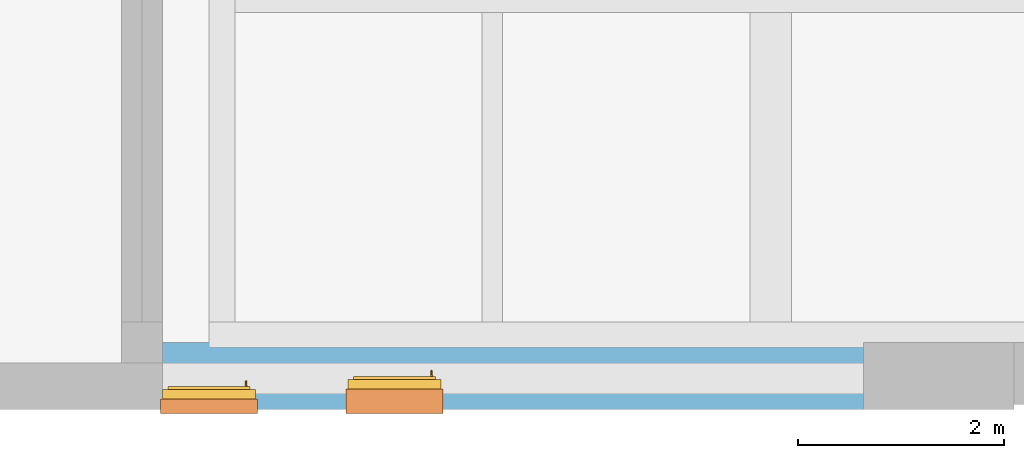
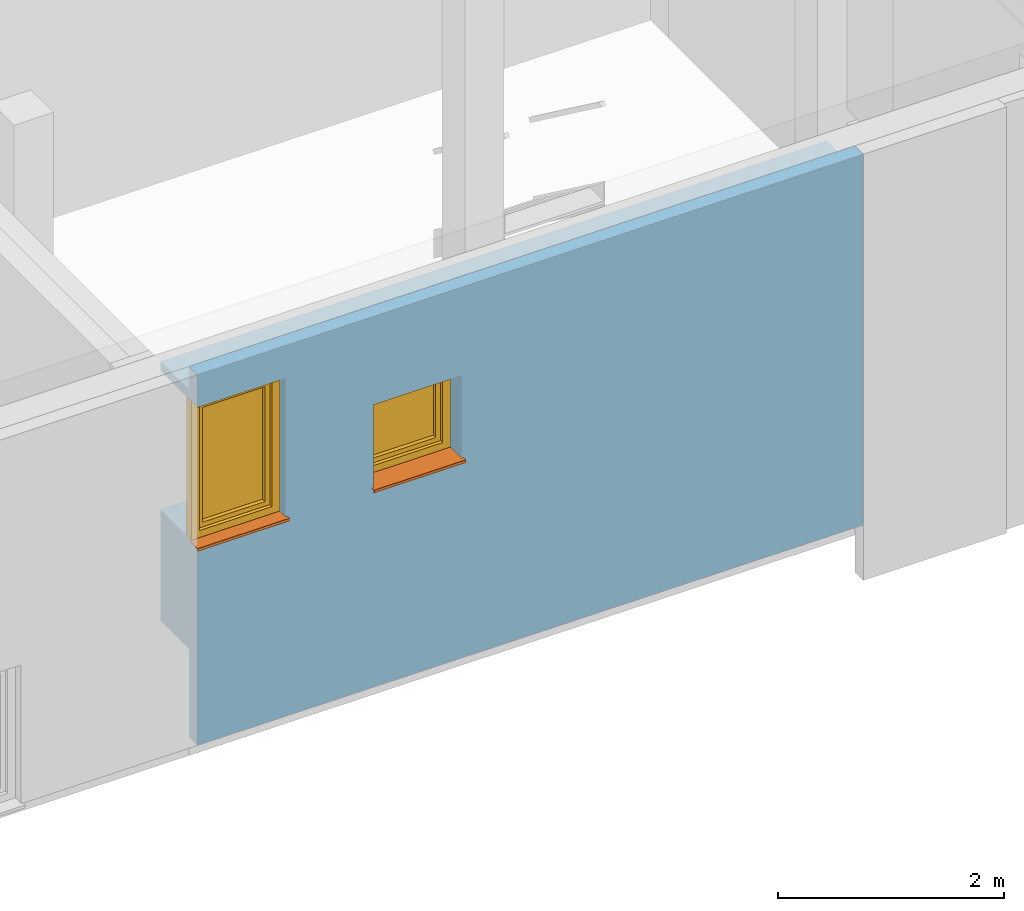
# One storey, part 12 of 17: 2 proxies, 2 windows, 2 openings, plus 1 element that does not belong to this part.
"""IFC4 building model written with IfcOpenShell, lengths in metres."""

from ifc_helpers import new_model, entity, si_unit, converted_unit, derived_unit, frame, frame_2d, origin, origin_with_axes, place, context, subcontext, project, spatial, polyline, rectangle, outline, extrude, clip, bounded_halfspace, closed_shell, open_shell, faceted_brep, surface_model, source, transform, mapped, material, layer, layer_set, layer_usage, element, fill, save


model = new_model("IFC4")

# Units and contexts
model_context = context("Model", 3, precision=1e-05, world=origin())
body_context = subcontext(model_context, "Body", "Model", "MODEL_VIEW")
ifc_project = project(units=[si_unit("LENGTHUNIT", "METRE"), si_unit("AREAUNIT", "SQUARE_METRE"), si_unit("VOLUMEUNIT", "CUBIC_METRE"), si_unit("MASSUNIT", "GRAM", prefix="KILO"), converted_unit("PLANEANGLEUNIT", "DEGREE", entity("IfcPlaneAngleMeasure", 0.0174532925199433), si_unit("PLANEANGLEUNIT", "RADIAN"), dimensions=[0, 0, 0, 0, 0, 0, 0]), derived_unit("THERMALTRANSMITTANCEUNIT", [(si_unit("POWERUNIT", "WATT"), 1), (si_unit("THERMODYNAMICTEMPERATUREUNIT", "KELVIN"), -1), (si_unit("LENGTHUNIT", "METRE"), -2)]), derived_unit("VOLUMETRICFLOWRATEUNIT", [(si_unit("LENGTHUNIT", "METRE"), 3), (converted_unit("TIMEUNIT", "hour", entity("IfcTimeMeasure", 3600.0), si_unit("TIMEUNIT", "SECOND"), dimensions=[0, 0, 1, 0, 0, 0, 0]), -1), (si_unit("LENGTHUNIT", "METRE"), -1)])], contexts=[model_context])

# Site, building, storey
site_placement = place(None, origin())
site = spatial("IfcSite", under=ifc_project, at=site_placement, Name="3. ASŘ", CompositionType="ELEMENT")
building_placement = place(site_placement, origin())
building = spatial("IfcBuilding", under=site, at=building_placement, Name="Pavilon C", CompositionType="ELEMENT")
storey_placement = place(building_placement, frame((0.0, 0.0, 13.8)))
storey = spatial("IfcBuildingStorey", under=building, at=storey_placement, Name="Půdorys 5.NP", CompositionType="ELEMENT", Elevation=13.8)

# Wall, openings, windows, proxies
ifc_material_1 = material(Name="EPS")
ifc_layer_1 = layer(ifc_material_1, 0.15)
ifc_material_2 = material(Name="PLYNOSILIKÁT")
ifc_layer_2 = layer(ifc_material_2, 0.5)
ifc_layer_set = layer_set([ifc_layer_1, ifc_layer_2])
ifc_layer_usage = layer_usage(ifc_layer_set, "AXIS2", "POSITIVE", -0.15)
wall_placement = place(storey_placement, frame((34.85, -4.65, 0.1), z_axis=(0.0, 0.0, 1.0), x_axis=(1.0, -1.3374922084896e-16, 0.0)))
wall = element("IfcWall", 1, at=wall_placement, inside=storey, material=ifc_layer_usage, Name="PLYNOSILIKÁT", context=body_context, shape_type="Clipping", body=[
    clip(clip(extrude(rectangle(XDim=6.80000000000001, YDim=0.65, at=frame_2d((3.40000000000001, 0.325), x_axis=(1.0, 0.0))), origin_with_axes(), (0.0, 0.0, 1.0), 4.0), bounded_halfspace(frame((3.40000000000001, 0.4, 0.95), z_axis=(0.0, 0.0, 1.0), x_axis=(1.3374922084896e-16, -1.0, 0.0)), True, origin_with_axes(), polyline([(-8.69369935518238e-17, 0.65), (-2.00623831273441e-17, 0.150000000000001), (6.80000000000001, 0.150000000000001), (6.80000000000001, 0.65), (-8.69369935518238e-17, 0.65)]))), bounded_halfspace(frame((3.40000000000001, 0.4, 3.75), z_axis=(0.0, 0.0, -1.0), x_axis=(1.0, 0.0, 0.0)), True, origin_with_axes(), polyline([(-2.00623831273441e-17, 0.150000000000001), (6.80000000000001, 0.150000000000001), (6.80000000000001, 0.65), (-8.69369935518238e-17, 0.65), (-2.00623831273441e-17, 0.150000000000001)]))),
])
opening_1_placement = place(wall_placement, frame((0.0, 0.0, 2.15), z_axis=(-1.3374922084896e-16, 1.0, 0.0), x_axis=(0.0, 0.0, 1.0)))
opening_1 = element("IfcOpeningElement", 2, at=opening_1_placement, cuts=wall, Name="Okenní otvor", ObjectType="Opening", context=body_context, shape_type="SweptSolid", body=[
    extrude(outline(polyline([(0.0, 0.9), (1.5, 0.9), (1.5, 0.0), (0.0, 0.0), (0.0, 0.9)])), origin_with_axes(), (0.0, 0.0, 1.0), 0.15),
    extrude(outline(polyline([(0.0, 0.9), (1.5, 0.9), (1.5, 0.0), (0.0, 0.0), (0.0, 0.9)])), frame((0.0, 0.0, 0.15), z_axis=(0.0, 0.0, 1.0), x_axis=(1.0, 0.0, 0.0)), (0.0, 0.0, 1.0), 0.5),
])
opening_2_placement = place(wall_placement, frame((1.8, 2.40748597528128e-16, 2.15), z_axis=(0.0, 1.0, 0.0), x_axis=(0.0, 0.0, 1.0)))
opening_2 = element("IfcOpeningElement", 3, at=opening_2_placement, cuts=wall, Name="Okenní otvor", ObjectType="Opening", context=body_context, shape_type="SweptSolid", body=[
    extrude(outline(polyline([(0.0, 0.9), (0.9, 0.9), (0.9, 0.0), (0.0, 0.0), (0.0, 0.9)])), origin_with_axes(), (0.0, 0.0, 1.0), 0.15),
    extrude(outline(polyline([(0.0, 0.9), (0.9, 0.9), (0.9, 0.0), (0.0, 0.0), (0.0, 0.9)])), frame((0.0, 0.0, 0.15), z_axis=(0.0, 0.0, 1.0), x_axis=(1.0, 0.0, 0.0)), (0.0, 0.0, 1.0), 0.5),
])
shared_shape_1 = source(origin_with_axes(), body_context, "Body", "SurfaceModel", [
    surface_model("IfcShellBasedSurfaceModel", [(0.0, 0.182, 1.5), (0.0, 0.182, -5.63337527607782e-18), (0.08, 0.182, -5.63337527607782e-18), (0.08, 0.182, 1.5), (0.0, 0.0899999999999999, 5.63337527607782e-18), (0.0, 0.0900000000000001, 1.5), (0.08, 0.0900000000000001, 1.5), (0.08, 0.0899999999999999, 5.63337527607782e-18)], [closed_shell([[[0, 1, 2, 3]], [[4, 5, 6, 7]], [[1, 0, 5, 4]], [[2, 1, 4, 7]], [[3, 2, 7, 6]], [[0, 3, 6, 5]]], orient=[[False], [False], [False], [False], [False], [False]])]),
    surface_model("IfcShellBasedSurfaceModel", [(0.82, 0.182, 1.5), (0.82, 0.182, -5.63337527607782e-18), (0.9, 0.182, -5.63337527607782e-18), (0.9, 0.182, 1.5), (0.82, 0.0899999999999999, 5.63337527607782e-18), (0.82, 0.0900000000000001, 1.5), (0.9, 0.0900000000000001, 1.5), (0.9, 0.0899999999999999, 5.63337527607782e-18)], [closed_shell([[[0, 1, 2, 3]], [[4, 5, 6, 7]], [[1, 0, 5, 4]], [[2, 1, 4, 7]], [[3, 2, 7, 6]], [[0, 3, 6, 5]]], orient=[[False], [False], [False], [False], [False], [False]])]),
    surface_model("IfcShellBasedSurfaceModel", [(0.08, 0.182, 0.08), (0.08, 0.182, -5.63337527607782e-18), (0.82, 0.182, -5.63337527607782e-18), (0.82, 0.182, 0.08), (0.08, 0.0899999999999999, 5.63337527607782e-18), (0.08, 0.0899999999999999, 0.08), (0.82, 0.0899999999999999, 0.08), (0.82, 0.0899999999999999, 5.63337527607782e-18)], [closed_shell([[[0, 1, 2, 3]], [[4, 5, 6, 7]], [[1, 0, 5, 4]], [[2, 1, 4, 7]], [[3, 2, 7, 6]], [[0, 3, 6, 5]]], orient=[[False], [False], [False], [False], [False], [False]])]),
    surface_model("IfcShellBasedSurfaceModel", [(0.08, 0.182, 1.5), (0.08, 0.182, 1.42), (0.82, 0.182, 1.42), (0.82, 0.182, 1.5), (0.08, 0.0900000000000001, 1.42), (0.08, 0.0900000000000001, 1.5), (0.82, 0.0900000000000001, 1.5), (0.82, 0.0900000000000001, 1.42)], [closed_shell([[[0, 1, 2, 3]], [[4, 5, 6, 7]], [[1, 0, 5, 4]], [[2, 1, 4, 7]], [[3, 2, 7, 6]], [[0, 3, 6, 5]]], orient=[[False], [False], [False], [False], [False], [False]])]),
    surface_model("IfcShellBasedSurfaceModel", [(0.05, 0.145, 1.45), (0.05, 0.145, 0.05), (0.13, 0.145, 0.05), (0.13, 0.145, 1.45), (0.05, 0.0599999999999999, 0.05), (0.05, 0.0600000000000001, 1.45), (0.13, 0.0600000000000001, 1.45), (0.13, 0.0599999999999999, 0.05)], [closed_shell([[[0, 1, 2, 3]], [[4, 5, 6, 7]], [[1, 0, 5, 4]], [[2, 1, 4, 7]], [[3, 2, 7, 6]], [[0, 3, 6, 5]]], orient=[[False], [False], [False], [False], [False], [False]])]),
    surface_model("IfcShellBasedSurfaceModel", [(0.77, 0.145, 1.45), (0.77, 0.145, 0.05), (0.85, 0.145, 0.05), (0.85, 0.145, 1.45), (0.77, 0.0599999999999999, 0.05), (0.77, 0.0600000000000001, 1.45), (0.85, 0.0600000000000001, 1.45), (0.85, 0.0599999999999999, 0.05)], [closed_shell([[[0, 1, 2, 3]], [[4, 5, 6, 7]], [[1, 0, 5, 4]], [[2, 1, 4, 7]], [[3, 2, 7, 6]], [[0, 3, 6, 5]]], orient=[[False], [False], [False], [False], [False], [False]])]),
    surface_model("IfcShellBasedSurfaceModel", [(0.13, 0.145, 0.13), (0.13, 0.145, 0.05), (0.77, 0.145, 0.05), (0.77, 0.145, 0.13), (0.13, 0.0599999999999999, 0.05), (0.13, 0.0599999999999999, 0.13), (0.77, 0.0599999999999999, 0.13), (0.77, 0.0599999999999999, 0.05)], [closed_shell([[[0, 1, 2, 3]], [[4, 5, 6, 7]], [[1, 0, 5, 4]], [[2, 1, 4, 7]], [[3, 2, 7, 6]], [[0, 3, 6, 5]]], orient=[[False], [False], [False], [False], [False], [False]])]),
    surface_model("IfcShellBasedSurfaceModel", [(0.13, 0.145, 1.45), (0.13, 0.145, 1.37), (0.77, 0.145, 1.37), (0.77, 0.145, 1.45), (0.13, 0.0600000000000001, 1.37), (0.13, 0.0600000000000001, 1.45), (0.77, 0.0600000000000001, 1.45), (0.77, 0.0600000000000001, 1.37)], [closed_shell([[[0, 1, 2, 3]], [[4, 5, 6, 7]], [[1, 0, 5, 4]], [[2, 1, 4, 7]], [[3, 2, 7, 6]], [[0, 3, 6, 5]]], orient=[[False], [False], [False], [False], [False], [False]])]),
    surface_model("IfcShellBasedSurfaceModel", [(0.0775, 0.06, 0.77), (0.0775, 0.06, 0.73), (0.1025, 0.06, 0.73), (0.1025, 0.06, 0.77), (0.0775, 0.05, 0.73), (0.0775, 0.05, 0.77), (0.1025, 0.05, 0.77), (0.1025, 0.05, 0.73)], [closed_shell([[[0, 1, 2, 3]], [[4, 5, 6, 7]], [[1, 0, 5, 4]], [[2, 1, 4, 7]], [[3, 2, 7, 6]], [[0, 3, 6, 5]]], orient=[[False], [False], [False], [False], [False], [False]])]),
    surface_model("IfcShellBasedSurfaceModel", [(0.1, 0.05, 0.75), (0.0986602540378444, 0.05, 0.755), (0.095, 0.05, 0.758660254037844), (0.09, 0.05, 0.76), (0.085, 0.05, 0.758660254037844), (0.0813397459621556, 0.05, 0.755), (0.08, 0.05, 0.75), (0.0813397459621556, 0.05, 0.745), (0.085, 0.05, 0.741339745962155), (0.09, 0.05, 0.74), (0.095, 0.05, 0.741339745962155), (0.0986602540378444, 0.05, 0.745), (0.1, 0.01, 0.75), (0.0986602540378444, 0.00500000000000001, 0.755), (0.095, 0.00133974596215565, 0.758660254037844), (0.09, 2.8421709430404e-17, 0.76), (0.085, 0.00133974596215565, 0.758660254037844), (0.0813397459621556, 0.00500000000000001, 0.755), (0.08, 0.01, 0.75), (0.0813397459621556, 0.015, 0.745), (0.085, 0.0186602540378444, 0.741339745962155), (0.09, 0.02, 0.74), (0.095, 0.0186602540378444, 0.741339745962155), (0.0986602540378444, 0.015, 0.745), (0.1, 0.01, 0.635), (0.0986602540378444, 0.005, 0.635), (0.095, 0.00133974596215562, 0.635), (0.09, 0.0, 0.635), (0.085, 0.00133974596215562, 0.635), (0.0813397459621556, 0.005, 0.635), (0.08, 0.01, 0.635), (0.0813397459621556, 0.015, 0.635), (0.085, 0.0186602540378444, 0.635), (0.09, 0.02, 0.635), (0.095, 0.0186602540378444, 0.635), (0.0986602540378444, 0.015, 0.635)], [open_shell([[[0, 1, 2, 3, 4, 5, 6, 7, 8, 9, 10, 11]], [[0, 12, 13, 1]], [[1, 13, 14, 2]], [[2, 14, 15, 3]], [[3, 15, 16, 4]], [[4, 16, 17, 5]], [[5, 17, 18, 6]], [[6, 18, 19, 7]], [[7, 19, 20, 8]], [[8, 20, 21, 9]], [[9, 21, 22, 10]], [[10, 22, 23, 11]], [[11, 23, 12, 0]], [[12, 24, 25, 13]], [[13, 25, 26, 14]], [[14, 26, 27, 15]], [[15, 27, 28, 16]], [[16, 28, 29, 17]], [[17, 29, 30, 18]], [[18, 30, 31, 19]], [[19, 31, 32, 20]], [[20, 32, 33, 21]], [[21, 33, 34, 22]], [[22, 34, 35, 23]], [[23, 35, 24, 12]]], orient=[[False], [False], [False], [False], [False], [False], [False], [False], [False], [False], [False], [False], [False], [False], [False], [False], [False], [False], [False], [False], [False], [False], [False], [False], [False]])]),
    surface_model("IfcShellBasedSurfaceModel", [(0.13, 0.1025, 0.13), (0.77, 0.1025, 0.13), (0.77, 0.1025, 1.37), (0.13, 0.1025, 1.37)], [open_shell([[[0, 1, 2, 3]]], orient=[[False]])]),
])
window_1_placement = place(opening_1_placement, frame((0.0, 0.9, 0.282), z_axis=(1.0, 0.0, 0.0), x_axis=(0.0, -1.0, 1.22464679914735e-16)))
window_1 = element("IfcWindow", 4, at=window_1_placement, inside=storey, Name="O06", OverallHeight=1.5, OverallWidth=0.9, PartitioningType="USERDEFINED", PredefinedType="WINDOW", context=body_context, shape_type="MappedRepresentation", body=[
    mapped(shared_shape_1, transform((0.0, 0.0, 0.0), x_axis=(1.0, 0.0, 0.0), y_axis=(0.0, 1.0, 0.0), z_axis=(0.0, 0.0, 1.0), scale=1.0)),
])
fill(opening_1, window_1)
shared_shape_2 = source(origin_with_axes(), body_context, "Body", "SurfaceModel", [
    surface_model("IfcShellBasedSurfaceModel", [(0.0, 0.182, 0.9), (0.0, 0.182, -5.63337527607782e-18), (0.08, 0.182, -5.63337527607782e-18), (0.08, 0.182, 0.9), (0.0, 0.09, 5.63337527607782e-18), (0.0, 0.0900000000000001, 0.9), (0.08, 0.0900000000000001, 0.9), (0.08, 0.09, 5.63337527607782e-18)], [closed_shell([[[0, 1, 2, 3]], [[4, 5, 6, 7]], [[1, 0, 5, 4]], [[2, 1, 4, 7]], [[3, 2, 7, 6]], [[0, 3, 6, 5]]], orient=[[False], [False], [False], [False], [False], [False]])]),
    surface_model("IfcShellBasedSurfaceModel", [(0.82, 0.182, 0.9), (0.82, 0.182, -5.63337527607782e-18), (0.9, 0.182, -5.63337527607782e-18), (0.9, 0.182, 0.9), (0.82, 0.09, 5.63337527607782e-18), (0.82, 0.0900000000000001, 0.9), (0.9, 0.0900000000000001, 0.9), (0.9, 0.09, 5.63337527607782e-18)], [closed_shell([[[0, 1, 2, 3]], [[4, 5, 6, 7]], [[1, 0, 5, 4]], [[2, 1, 4, 7]], [[3, 2, 7, 6]], [[0, 3, 6, 5]]], orient=[[False], [False], [False], [False], [False], [False]])]),
    surface_model("IfcShellBasedSurfaceModel", [(0.08, 0.182, 0.08), (0.08, 0.182, -5.63337527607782e-18), (0.82, 0.182, -5.63337527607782e-18), (0.82, 0.182, 0.08), (0.08, 0.09, 5.63337527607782e-18), (0.08, 0.09, 0.08), (0.82, 0.09, 0.08), (0.82, 0.09, 5.63337527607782e-18)], [closed_shell([[[0, 1, 2, 3]], [[4, 5, 6, 7]], [[1, 0, 5, 4]], [[2, 1, 4, 7]], [[3, 2, 7, 6]], [[0, 3, 6, 5]]], orient=[[False], [False], [False], [False], [False], [False]])]),
    surface_model("IfcShellBasedSurfaceModel", [(0.08, 0.182, 0.9), (0.08, 0.182, 0.82), (0.82, 0.182, 0.82), (0.82, 0.182, 0.9), (0.08, 0.0900000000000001, 0.82), (0.08, 0.0900000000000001, 0.9), (0.82, 0.0900000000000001, 0.9), (0.82, 0.0900000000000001, 0.82)], [closed_shell([[[0, 1, 2, 3]], [[4, 5, 6, 7]], [[1, 0, 5, 4]], [[2, 1, 4, 7]], [[3, 2, 7, 6]], [[0, 3, 6, 5]]], orient=[[False], [False], [False], [False], [False], [False]])]),
    surface_model("IfcShellBasedSurfaceModel", [(0.05, 0.145, 0.85), (0.05, 0.145, 0.05), (0.13, 0.145, 0.05), (0.13, 0.145, 0.85), (0.05, 0.06, 0.05), (0.05, 0.0600000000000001, 0.85), (0.13, 0.0600000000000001, 0.85), (0.13, 0.06, 0.05)], [closed_shell([[[0, 1, 2, 3]], [[4, 5, 6, 7]], [[1, 0, 5, 4]], [[2, 1, 4, 7]], [[3, 2, 7, 6]], [[0, 3, 6, 5]]], orient=[[False], [False], [False], [False], [False], [False]])]),
    surface_model("IfcShellBasedSurfaceModel", [(0.77, 0.145, 0.85), (0.77, 0.145, 0.05), (0.85, 0.145, 0.05), (0.85, 0.145, 0.85), (0.77, 0.06, 0.05), (0.77, 0.0600000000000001, 0.85), (0.85, 0.0600000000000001, 0.85), (0.85, 0.06, 0.05)], [closed_shell([[[0, 1, 2, 3]], [[4, 5, 6, 7]], [[1, 0, 5, 4]], [[2, 1, 4, 7]], [[3, 2, 7, 6]], [[0, 3, 6, 5]]], orient=[[False], [False], [False], [False], [False], [False]])]),
    surface_model("IfcShellBasedSurfaceModel", [(0.13, 0.145, 0.13), (0.13, 0.145, 0.05), (0.77, 0.145, 0.05), (0.77, 0.145, 0.13), (0.13, 0.06, 0.05), (0.13, 0.06, 0.13), (0.77, 0.06, 0.13), (0.77, 0.06, 0.05)], [closed_shell([[[0, 1, 2, 3]], [[4, 5, 6, 7]], [[1, 0, 5, 4]], [[2, 1, 4, 7]], [[3, 2, 7, 6]], [[0, 3, 6, 5]]], orient=[[False], [False], [False], [False], [False], [False]])]),
    surface_model("IfcShellBasedSurfaceModel", [(0.13, 0.145, 0.85), (0.13, 0.145, 0.77), (0.77, 0.145, 0.77), (0.77, 0.145, 0.85), (0.13, 0.06, 0.77), (0.13, 0.0600000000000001, 0.85), (0.77, 0.0600000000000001, 0.85), (0.77, 0.06, 0.77)], [closed_shell([[[0, 1, 2, 3]], [[4, 5, 6, 7]], [[1, 0, 5, 4]], [[2, 1, 4, 7]], [[3, 2, 7, 6]], [[0, 3, 6, 5]]], orient=[[False], [False], [False], [False], [False], [False]])]),
    surface_model("IfcShellBasedSurfaceModel", [(0.0775, 0.06, 0.47), (0.0775, 0.06, 0.43), (0.1025, 0.06, 0.43), (0.1025, 0.06, 0.47), (0.0775, 0.05, 0.43), (0.0775, 0.05, 0.47), (0.1025, 0.05, 0.47), (0.1025, 0.05, 0.43)], [closed_shell([[[0, 1, 2, 3]], [[4, 5, 6, 7]], [[1, 0, 5, 4]], [[2, 1, 4, 7]], [[3, 2, 7, 6]], [[0, 3, 6, 5]]], orient=[[False], [False], [False], [False], [False], [False]])]),
    surface_model("IfcShellBasedSurfaceModel", [(0.1, 0.05, 0.45), (0.0986602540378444, 0.05, 0.455), (0.095, 0.05, 0.458660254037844), (0.09, 0.05, 0.46), (0.085, 0.05, 0.458660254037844), (0.0813397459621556, 0.05, 0.455), (0.08, 0.05, 0.45), (0.0813397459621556, 0.05, 0.445), (0.085, 0.05, 0.441339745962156), (0.09, 0.05, 0.44), (0.095, 0.05, 0.441339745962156), (0.0986602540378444, 0.05, 0.445), (0.1, 0.01, 0.45), (0.0986602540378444, 0.00500000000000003, 0.455), (0.095, 0.00133974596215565, 0.458660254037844), (0.09, 2.8421709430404e-17, 0.46), (0.085, 0.00133974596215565, 0.458660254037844), (0.0813397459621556, 0.00500000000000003, 0.455), (0.08, 0.01, 0.45), (0.0813397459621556, 0.015, 0.445), (0.085, 0.0186602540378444, 0.441339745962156), (0.09, 0.02, 0.44), (0.095, 0.0186602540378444, 0.441339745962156), (0.0986602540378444, 0.015, 0.445), (0.1, 0.01, 0.335), (0.0986602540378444, 0.005, 0.335), (0.095, 0.00133974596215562, 0.335), (0.09, 0.0, 0.335), (0.085, 0.00133974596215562, 0.335), (0.0813397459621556, 0.005, 0.335), (0.08, 0.01, 0.335), (0.0813397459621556, 0.015, 0.335), (0.085, 0.0186602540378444, 0.335), (0.09, 0.02, 0.335), (0.095, 0.0186602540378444, 0.335), (0.0986602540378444, 0.015, 0.335)], [open_shell([[[0, 1, 2, 3, 4, 5, 6, 7, 8, 9, 10, 11]], [[0, 12, 13, 1]], [[1, 13, 14, 2]], [[2, 14, 15, 3]], [[3, 15, 16, 4]], [[4, 16, 17, 5]], [[5, 17, 18, 6]], [[6, 18, 19, 7]], [[7, 19, 20, 8]], [[8, 20, 21, 9]], [[9, 21, 22, 10]], [[10, 22, 23, 11]], [[11, 23, 12, 0]], [[12, 24, 25, 13]], [[13, 25, 26, 14]], [[14, 26, 27, 15]], [[15, 27, 28, 16]], [[16, 28, 29, 17]], [[17, 29, 30, 18]], [[18, 30, 31, 19]], [[19, 31, 32, 20]], [[20, 32, 33, 21]], [[21, 33, 34, 22]], [[22, 34, 35, 23]], [[23, 35, 24, 12]]], orient=[[False], [False], [False], [False], [False], [False], [False], [False], [False], [False], [False], [False], [False], [False], [False], [False], [False], [False], [False], [False], [False], [False], [False], [False], [False]])]),
    surface_model("IfcShellBasedSurfaceModel", [(0.13, 0.1025, 0.13), (0.77, 0.1025, 0.13), (0.77, 0.1025, 0.77), (0.13, 0.1025, 0.77)], [open_shell([[[0, 1, 2, 3]]], orient=[[False]])]),
])
window_2_placement = place(opening_2_placement, frame((0.0, 0.9, 0.382000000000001), z_axis=(1.0, 0.0, 0.0), x_axis=(0.0, -1.0, -1.12845409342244e-17)))
window_2 = element("IfcWindow", 5, at=window_2_placement, inside=storey, Name="O06", OverallHeight=0.9, OverallWidth=0.9, PartitioningType="USERDEFINED", PredefinedType="WINDOW", context=body_context, shape_type="MappedRepresentation", body=[
    mapped(shared_shape_2, transform((0.0, 0.0, 0.0), x_axis=(1.0, 0.0, 0.0), y_axis=(0.0, 1.0, 0.0), z_axis=(0.0, 0.0, 1.0), scale=1.0)),
])
fill(opening_2, window_2)
ifc_material_3 = material(Name="PLECH")
shared_shape_3 = source(origin_with_axes(), body_context, "Body", "Brep", [
    faceted_brep([(0.0, 0.0, 0.0), (0.0, 0.1, 0.0), (0.0, 0.1, 0.005), (0.0, 0.0, 0.005), (0.9, 0.0, 0.0), (0.9, 0.0, 0.005), (0.9, 0.1, 0.005), (0.9, 0.1, 0.0), (-0.02, 0.0, 0.0), (-0.02, -0.035, 0.0), (0.92, -0.035, 0.0), (0.92, 0.0, 0.0), (0.92, 0.0, 0.005), (0.92, -0.04, 0.005), (-0.02, -0.04, 0.005), (-0.02, 0.0, 0.005), (-0.02, -0.04, -0.025), (-0.02, -0.035, -0.025), (0.92, -0.035, -0.025), (0.92, -0.04, -0.025)], [[[0, 1, 2, 3]], [[4, 5, 6, 7]], [[1, 0, 8, 9, 10, 11, 4, 7]], [[2, 1, 7, 6]], [[3, 2, 6, 5, 12, 13, 14, 15]], [[8, 15, 14, 16, 17, 9]], [[11, 10, 18, 19, 13, 12]], [[15, 8, 0, 3]], [[5, 4, 11, 12]], [[16, 14, 13, 19]], [[17, 16, 19, 18]], [[9, 17, 18, 10]]], orient=[[False], [False], [False], [False], [False], [False], [False], [False], [False], [False], [False], [False]]),
    faceted_brep([(-0.02, 0.0, 0.0), (-0.02, 0.1, 0.0), (-0.02, 0.1, 0.005), (-0.02, 0.0, 0.005), (0.0, 0.0, 0.0), (0.0, 0.0, 0.005), (0.0, 0.1, 0.005), (0.0, 0.1, 0.0)], [[[0, 1, 2, 3]], [[4, 5, 6, 7]], [[1, 0, 4, 7]], [[2, 1, 7, 6]], [[3, 2, 6, 5]], [[0, 3, 5, 4]]], orient=[[False], [False], [False], [False], [False], [False]]),
    faceted_brep([(0.9, 0.0, 0.0), (0.9, 0.1, 0.0), (0.9, 0.1, 0.005), (0.9, 0.0, 0.005), (0.92, 0.0, 0.0), (0.92, 0.0, 0.005), (0.92, 0.1, 0.005), (0.92, 0.1, 0.0)], [[[0, 1, 2, 3]], [[4, 5, 6, 7]], [[1, 0, 4, 7]], [[2, 1, 7, 6]], [[3, 2, 6, 5]], [[0, 3, 5, 4]]], orient=[[False], [False], [False], [False], [False], [False]]),
])
proxy_1_placement = place(opening_1_placement, frame((0.0, 0.0, 0.0), z_axis=(1.0, 0.0, 0.0), x_axis=(0.0, 1.0, 0.0)))
proxy_1 = element("IfcBuildingElementProxy", 6, at=proxy_1_placement, inside=storey, material=ifc_material_3, Name="Parapet vnější", context=body_context, shape_type="MappedRepresentation", body=[
    mapped(shared_shape_3, transform((0.0, 0.0, 0.0), x_axis=(1.0, 0.0, 0.0), y_axis=(0.0, 1.0, 0.0), z_axis=(0.0, 0.0, 1.0), scale=1.0)),
])
fill(opening_1, proxy_1)
ifc_material_4 = material(Name="PLECH")
shared_shape_4 = source(origin_with_axes(), body_context, "Body", "Brep", [
    faceted_brep([(0.0, 0.0, 0.0), (0.0, 0.2, 0.0), (0.0, 0.2, 0.005), (0.0, 0.0, 0.005), (0.9, 9.09494701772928e-16, 0.0), (0.9, 9.09494701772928e-16, 0.005), (0.9, 0.200000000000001, 0.005), (0.9, 0.200000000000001, 0.0), (-0.02, 0.0, 0.0), (-0.02, -0.035, 0.0), (0.92, -0.0349999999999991, 0.0), (0.92, 9.09494701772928e-16, 0.0), (0.92, 9.09494701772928e-16, 0.005), (0.92, -0.0399999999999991, 0.005), (-0.02, -0.04, 0.005), (-0.02, 0.0, 0.005), (-0.02, -0.04, -0.025), (-0.02, -0.035, -0.025), (0.92, -0.0349999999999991, -0.025), (0.92, -0.0399999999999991, -0.025)], [[[0, 1, 2, 3]], [[4, 5, 6, 7]], [[1, 0, 8, 9, 10, 11, 4, 7]], [[2, 1, 7, 6]], [[3, 2, 6, 5, 12, 13, 14, 15]], [[8, 15, 14, 16, 17, 9]], [[11, 10, 18, 19, 13, 12]], [[15, 8, 0, 3]], [[5, 4, 11, 12]], [[16, 14, 13, 19]], [[17, 16, 19, 18]], [[9, 17, 18, 10]]], orient=[[False], [False], [False], [False], [False], [False], [False], [False], [False], [False], [False], [False]]),
    faceted_brep([(-0.02, 0.0, 0.0), (-0.02, 0.2, 0.0), (-0.02, 0.2, 0.005), (-0.02, 0.0, 0.005), (0.0, 0.0, 0.0), (0.0, 0.0, 0.005), (0.0, 0.2, 0.005), (0.0, 0.2, 0.0)], [[[0, 1, 2, 3]], [[4, 5, 6, 7]], [[1, 0, 4, 7]], [[2, 1, 7, 6]], [[3, 2, 6, 5]], [[0, 3, 5, 4]]], orient=[[False], [False], [False], [False], [False], [False]]),
    faceted_brep([(0.9, 9.09494701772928e-16, 0.0), (0.9, 0.200000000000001, 0.0), (0.9, 0.200000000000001, 0.005), (0.9, 9.09494701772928e-16, 0.005), (0.92, 9.09494701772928e-16, 0.0), (0.92, 9.09494701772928e-16, 0.005), (0.92, 0.200000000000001, 0.005), (0.92, 0.200000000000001, 0.0)], [[[0, 1, 2, 3]], [[4, 5, 6, 7]], [[1, 0, 4, 7]], [[2, 1, 7, 6]], [[3, 2, 6, 5]], [[0, 3, 5, 4]]], orient=[[False], [False], [False], [False], [False], [False]]),
])
proxy_2_placement = place(opening_2_placement, frame((0.0, 0.0, 0.0), z_axis=(1.0, 0.0, 0.0), x_axis=(0.0, 1.0, 0.0)))
proxy_2 = element("IfcBuildingElementProxy", 7, at=proxy_2_placement, inside=storey, material=ifc_material_4, Name="Parapet vnější", context=body_context, shape_type="MappedRepresentation", body=[
    mapped(shared_shape_4, transform((0.0, 0.0, 0.0), x_axis=(1.0, 0.0, 0.0), y_axis=(0.0, 1.0, 0.0), z_axis=(0.0, 0.0, 1.0), scale=1.0)),
])
fill(opening_2, proxy_2)

save(model, "model.ifc")
